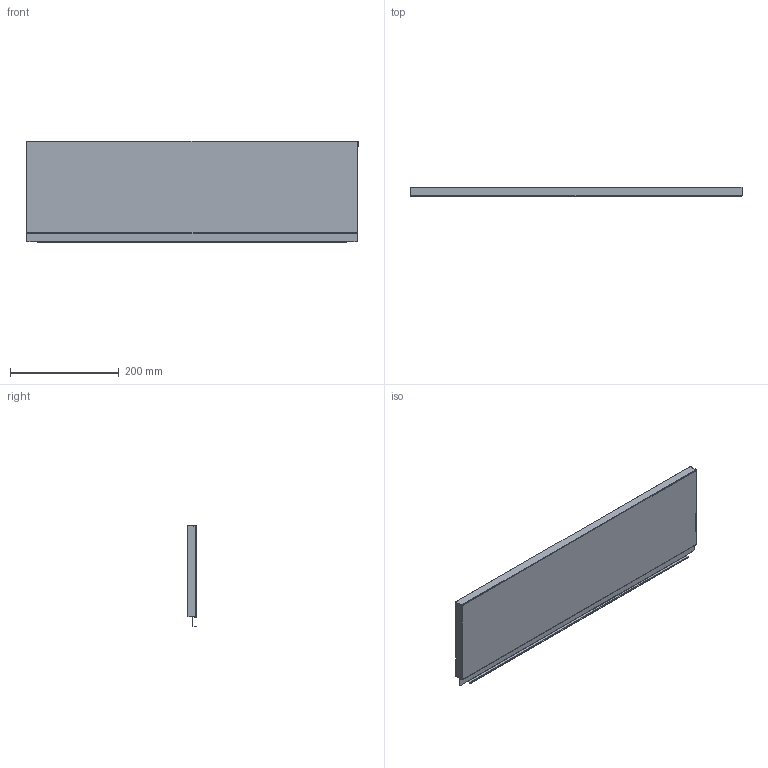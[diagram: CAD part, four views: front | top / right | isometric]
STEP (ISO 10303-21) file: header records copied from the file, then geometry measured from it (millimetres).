
FILE_DESCRIPTION (( 'STEP AP214' ), '1' );
FILE_NAME ('_STRW_H186_KAB_700.step', '2010-08-24T14:40:26', ( 'grass' ), ( '' ), 'SwSTEP 2.0', 'SolidWorks 2009', '' );
FILE_SCHEMA (( 'AUTOMOTIVE_DESIGN' ));
Length unit declared in the file: millimetre
Products named in the file (1): _STRW_H186_KAB_700
Bounding box: 610 x 17 x 186.14 mm (x, y, z)
Volume: 109075.6 mm3; surface area: 274084.4 mm2
Topology: 1 solids, 1 shells, 76 faces, 214 edges, 140 vertices
Faces by surface type: plane 54, cylinder 22
Entity records: 2472 total; most frequent: CARTESIAN_POINT 431, ORIENTED_EDGE 428, DIRECTION 412, EDGE_CURVE 214, LINE 170, VECTOR 170, VERTEX_POINT 140, AXIS2_PLACEMENT_3D 121
